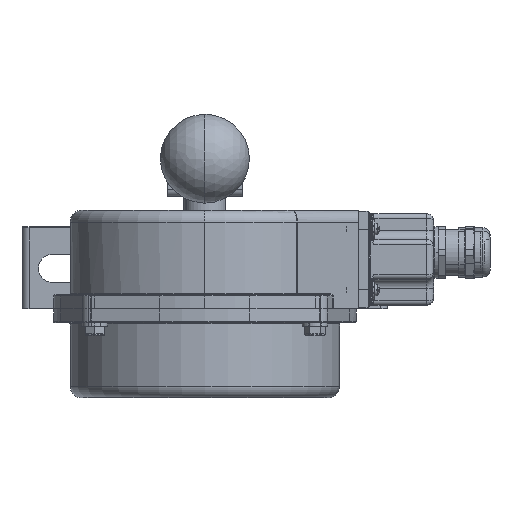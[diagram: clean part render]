
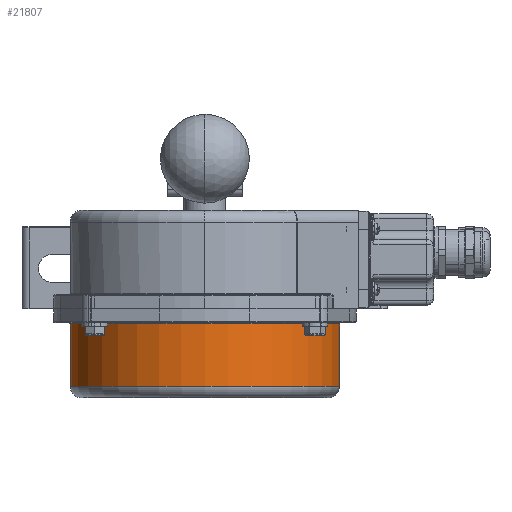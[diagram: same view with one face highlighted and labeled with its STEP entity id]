
A CAD part, left-side view. The second image highlights one B-rep face of the part: STEP entity #21807.
In plain terms, the highlighted cylindrical face has radius 57.5 mm (diameter 115 mm), a partial arc.
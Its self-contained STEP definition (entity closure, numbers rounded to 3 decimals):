
#10 = CARTESIAN_POINT ( 'NONE',  ( 0., 0., 38. ) ) ;
#3001 = CARTESIAN_POINT ( 'NONE',  ( 0., 0., 33. ) ) ;
#3436 = ORIENTED_EDGE ( 'NONE', *, *, #22116, .T. ) ;
#4235 = CIRCLE ( 'NONE', #31779, 57.5 ) ;
#6688 = LINE ( 'NONE', #21753, #25498 ) ;
#6814 = DIRECTION ( 'NONE',  ( 1., 0., 0. ) ) ;
#9568 = CIRCLE ( 'NONE', #37153, 57.5 ) ;
#9585 = DIRECTION ( 'NONE',  ( 0., 0., -1. ) ) ;
#13622 = VERTEX_POINT ( 'NONE', #21007 ) ;
#13854 = VERTEX_POINT ( 'NONE', #22683 ) ;
#15024 = DIRECTION ( 'NONE',  ( 0., 0., -1. ) ) ;
#15610 = CARTESIAN_POINT ( 'NONE',  ( 57.5, 0., 33. ) ) ;
#16499 = EDGE_LOOP ( 'NONE', ( #28237, #30020, #3436, #22815 ) ) ;
#18035 = DIRECTION ( 'NONE',  ( 0., 0., -1. ) ) ;
#18766 = FACE_OUTER_BOUND ( 'NONE', #16499, .T. ) ;
#18911 = VERTEX_POINT ( 'NONE', #30773 ) ;
#19142 = AXIS2_PLACEMENT_3D ( 'NONE', #10, #15024, #30096 ) ;
#21007 = CARTESIAN_POINT ( 'NONE',  ( -57.5, 0., 33. ) ) ;
#21753 = CARTESIAN_POINT ( 'NONE',  ( 57.5, 0., 38. ) ) ;
#21807 = ADVANCED_FACE ( 'NONE', ( #18766 ), #33803, .T. ) ;
#22116 = EDGE_CURVE ( 'NONE', #13854, #18911, #9568, .T. ) ;
#22683 = CARTESIAN_POINT ( 'NONE',  ( 57.5, 0., 6.5 ) ) ;
#22815 = ORIENTED_EDGE ( 'NONE', *, *, #36349, .F. ) ;
#25498 = VECTOR ( 'NONE', #36766, 1000. ) ;
#25550 = CARTESIAN_POINT ( 'NONE',  ( 0., 0., 6.5 ) ) ;
#28237 = ORIENTED_EDGE ( 'NONE', *, *, #38474, .T. ) ;
#28329 = LINE ( 'NONE', #43365, #31673 ) ;
#30020 = ORIENTED_EDGE ( 'NONE', *, *, #38468, .T. ) ;
#30096 = DIRECTION ( 'NONE',  ( -1., 0., 0. ) ) ;
#30773 = CARTESIAN_POINT ( 'NONE',  ( -57.5, 0., 6.5 ) ) ;
#31673 = VECTOR ( 'NONE', #9585, 1000. ) ;
#31779 = AXIS2_PLACEMENT_3D ( 'NONE', #3001, #18035, #33067 ) ;
#33067 = DIRECTION ( 'NONE',  ( 1., 0., 0. ) ) ;
#33803 = CYLINDRICAL_SURFACE ( 'NONE', #19142, 57.5 ) ;
#36349 = EDGE_CURVE ( 'NONE', #13622, #18911, #28329, .T. ) ;
#36766 = DIRECTION ( 'NONE',  ( 0., 0., -1. ) ) ;
#37153 = AXIS2_PLACEMENT_3D ( 'NONE', #25550, #40583, #6814 ) ;
#38468 = EDGE_CURVE ( 'NONE', #42335, #13854, #6688, .T. ) ;
#38474 = EDGE_CURVE ( 'NONE', #13622, #42335, #4235, .T. ) ;
#40583 = DIRECTION ( 'NONE',  ( 0., 0., 1. ) ) ;
#42335 = VERTEX_POINT ( 'NONE', #15610 ) ;
#43365 = CARTESIAN_POINT ( 'NONE',  ( -57.5, 0., 38. ) ) ;
